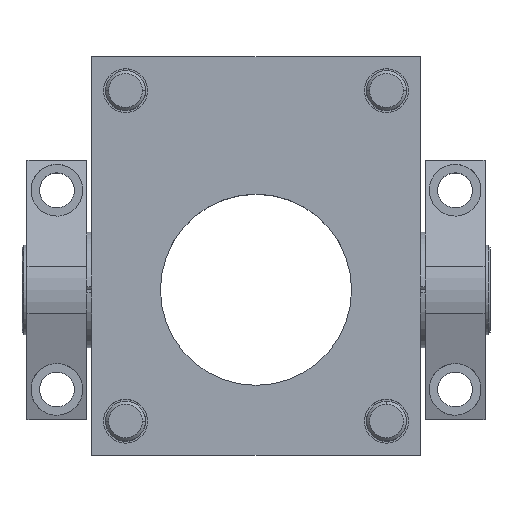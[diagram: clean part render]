
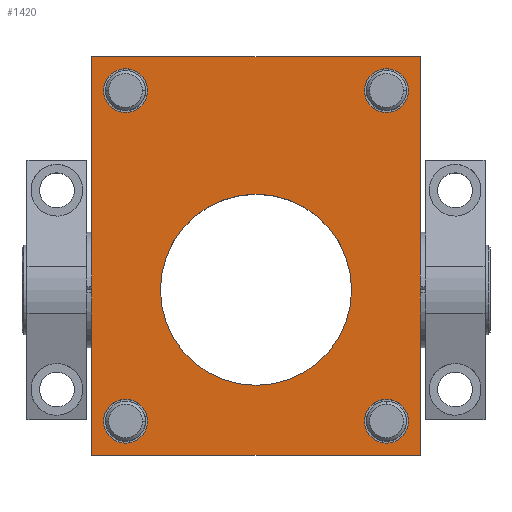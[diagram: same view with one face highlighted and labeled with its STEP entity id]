
A CAD part, top view. The second image highlights one B-rep face of the part: STEP entity #1420.
In plain terms, the highlighted planar face has unit normal (0, 0, 1).
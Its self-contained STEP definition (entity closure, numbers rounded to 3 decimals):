
#20 = VECTOR ( 'NONE', #6064, 1000. ) ;
#49 = LINE ( 'NONE', #4022, #3586 ) ;
#81 = CIRCLE ( 'NONE', #3471, 11. ) ;
#102 = AXIS2_PLACEMENT_3D ( 'NONE', #1019, #5587, #3124 ) ;
#126 = CARTESIAN_POINT ( 'NONE',  ( 65.5, -66., -49.5 ) ) ;
#192 = CARTESIAN_POINT ( 'NONE',  ( 65.5, 100., -49.5 ) ) ;
#193 = CIRCLE ( 'NONE', #6212, 11. ) ;
#229 = ORIENTED_EDGE ( 'NONE', *, *, #1942, .T. ) ;
#234 = FACE_BOUND ( 'NONE', #2367, .T. ) ;
#253 = EDGE_CURVE ( 'NONE', #4575, #2224, #2694, .T. ) ;
#309 = CIRCLE ( 'NONE', #102, 11. ) ;
#380 = DIRECTION ( 'NONE',  ( 0., 1., 0. ) ) ;
#413 = DIRECTION ( 'NONE',  ( 0., 1., 0. ) ) ;
#532 = EDGE_CURVE ( 'NONE', #6255, #1823, #2040, .T. ) ;
#587 = FACE_BOUND ( 'NONE', #5942, .T. ) ;
#595 = AXIS2_PLACEMENT_3D ( 'NONE', #1644, #2282, #2216 ) ;
#612 = VECTOR ( 'NONE', #4142, 1000. ) ;
#651 = ORIENTED_EDGE ( 'NONE', *, *, #253, .T. ) ;
#655 = EDGE_CURVE ( 'NONE', #686, #3051, #2446, .T. ) ;
#686 = VERTEX_POINT ( 'NONE', #4456 ) ;
#703 = DIRECTION ( 'NONE',  ( 0., 1., 0. ) ) ;
#721 = DIRECTION ( 'NONE',  ( 0., -1., 0. ) ) ;
#766 = LINE ( 'NONE', #6365, #20 ) ;
#770 = VERTEX_POINT ( 'NONE', #5042 ) ;
#779 = DIRECTION ( 'NONE',  ( 0., 1., 0. ) ) ;
#804 = VERTEX_POINT ( 'NONE', #4019 ) ;
#895 = ORIENTED_EDGE ( 'NONE', *, *, #4459, .T. ) ;
#912 = VERTEX_POINT ( 'NONE', #6294 ) ;
#955 = CARTESIAN_POINT ( 'NONE',  ( -82.5, 117., -49.5 ) ) ;
#1019 = CARTESIAN_POINT ( 'NONE',  ( 65.5, -66., -49.5 ) ) ;
#1031 = DIRECTION ( 'NONE',  ( 0., 1., 0. ) ) ;
#1139 = DIRECTION ( 'NONE',  ( 0., 0., -1. ) ) ;
#1234 = AXIS2_PLACEMENT_3D ( 'NONE', #192, #6246, #3212 ) ;
#1330 = DIRECTION ( 'NONE',  ( 0., 0., -1. ) ) ;
#1360 = EDGE_CURVE ( 'NONE', #1823, #6255, #309, .T. ) ;
#1420 = ADVANCED_FACE ( 'NONE', ( #2668, #1749, #4738, #234, #587, #1720 ), #2164, .T. ) ;
#1471 = AXIS2_PLACEMENT_3D ( 'NONE', #6225, #2636, #721 ) ;
#1472 = CARTESIAN_POINT ( 'NONE',  ( 65.5, 89., -49.5 ) ) ;
#1481 = CARTESIAN_POINT ( 'NONE',  ( -65.5, -55., -49.5 ) ) ;
#1490 = ORIENTED_EDGE ( 'NONE', *, *, #2028, .T. ) ;
#1644 = CARTESIAN_POINT ( 'NONE',  ( -65.5, 100., -49.5 ) ) ;
#1652 = ORIENTED_EDGE ( 'NONE', *, *, #532, .T. ) ;
#1720 = FACE_OUTER_BOUND ( 'NONE', #5720, .T. ) ;
#1728 = CARTESIAN_POINT ( 'NONE',  ( 82.5, 117., -49.5 ) ) ;
#1749 = FACE_BOUND ( 'NONE', #2695, .T. ) ;
#1818 = AXIS2_PLACEMENT_3D ( 'NONE', #6411, #5303, #380 ) ;
#1823 = VERTEX_POINT ( 'NONE', #4602 ) ;
#1830 = CARTESIAN_POINT ( 'NONE',  ( 65.5, 100., -49.5 ) ) ;
#1840 = DIRECTION ( 'NONE',  ( 0., 1., 0. ) ) ;
#1887 = CIRCLE ( 'NONE', #1234, 11. ) ;
#1895 = CARTESIAN_POINT ( 'NONE',  ( 0., -48., -49.5 ) ) ;
#1942 = EDGE_CURVE ( 'NONE', #912, #4637, #3184, .T. ) ;
#1974 = CARTESIAN_POINT ( 'NONE',  ( 0., 0., -49.5 ) ) ;
#1990 = ORIENTED_EDGE ( 'NONE', *, *, #1360, .T. ) ;
#2028 = EDGE_CURVE ( 'NONE', #5285, #5749, #81, .T. ) ;
#2040 = CIRCLE ( 'NONE', #5617, 11. ) ;
#2081 = EDGE_CURVE ( 'NONE', #5749, #5285, #193, .T. ) ;
#2164 = PLANE ( 'NONE',  #1471 ) ;
#2216 = DIRECTION ( 'NONE',  ( 0., 1., 0. ) ) ;
#2224 = VERTEX_POINT ( 'NONE', #1472 ) ;
#2270 = EDGE_CURVE ( 'NONE', #770, #5691, #49, .T. ) ;
#2282 = DIRECTION ( 'NONE',  ( 0., 0., -1. ) ) ;
#2349 = DIRECTION ( 'NONE',  ( 0., 0., -1. ) ) ;
#2367 = EDGE_LOOP ( 'NONE', ( #1490, #4677 ) ) ;
#2384 = CARTESIAN_POINT ( 'NONE',  ( -65.5, -66., -49.5 ) ) ;
#2406 = CIRCLE ( 'NONE', #5133, 48. ) ;
#2446 = LINE ( 'NONE', #6433, #6466 ) ;
#2550 = EDGE_CURVE ( 'NONE', #2224, #4575, #1887, .T. ) ;
#2636 = DIRECTION ( 'NONE',  ( 0., 0., 1. ) ) ;
#2668 = FACE_BOUND ( 'NONE', #5921, .T. ) ;
#2694 = CIRCLE ( 'NONE', #6382, 11. ) ;
#2695 = EDGE_LOOP ( 'NONE', ( #229, #6450 ) ) ;
#2731 = ORIENTED_EDGE ( 'NONE', *, *, #2550, .T. ) ;
#2785 = DIRECTION ( 'NONE',  ( 0., 0., -1. ) ) ;
#3008 = DIRECTION ( 'NONE',  ( 0., -1., 0. ) ) ;
#3051 = VERTEX_POINT ( 'NONE', #4406 ) ;
#3124 = DIRECTION ( 'NONE',  ( 0., 1., 0. ) ) ;
#3175 = EDGE_CURVE ( 'NONE', #5691, #686, #4209, .T. ) ;
#3184 = CIRCLE ( 'NONE', #595, 11. ) ;
#3202 = CARTESIAN_POINT ( 'NONE',  ( -65.5, 100., -49.5 ) ) ;
#3212 = DIRECTION ( 'NONE',  ( 0., 1., 0. ) ) ;
#3359 = DIRECTION ( 'NONE',  ( 0., 1., 0. ) ) ;
#3415 = ORIENTED_EDGE ( 'NONE', *, *, #3175, .F. ) ;
#3471 = AXIS2_PLACEMENT_3D ( 'NONE', #5300, #2785, #779 ) ;
#3586 = VECTOR ( 'NONE', #1031, 1000. ) ;
#3935 = EDGE_LOOP ( 'NONE', ( #1990, #1652 ) ) ;
#3967 = ORIENTED_EDGE ( 'NONE', *, *, #5944, .T. ) ;
#4019 = CARTESIAN_POINT ( 'NONE',  ( 0., 48., -49.5 ) ) ;
#4022 = CARTESIAN_POINT ( 'NONE',  ( -82.5, 117., -49.5 ) ) ;
#4142 = DIRECTION ( 'NONE',  ( 1., 0., 0. ) ) ;
#4209 = LINE ( 'NONE', #1728, #612 ) ;
#4406 = CARTESIAN_POINT ( 'NONE',  ( 82.5, -83., -49.5 ) ) ;
#4436 = ORIENTED_EDGE ( 'NONE', *, *, #655, .F. ) ;
#4456 = CARTESIAN_POINT ( 'NONE',  ( 82.5, 117., -49.5 ) ) ;
#4459 = EDGE_CURVE ( 'NONE', #804, #5163, #2406, .T. ) ;
#4564 = CARTESIAN_POINT ( 'NONE',  ( -65.5, 89., -49.5 ) ) ;
#4575 = VERTEX_POINT ( 'NONE', #4984 ) ;
#4602 = CARTESIAN_POINT ( 'NONE',  ( 65.5, -55., -49.5 ) ) ;
#4619 = CARTESIAN_POINT ( 'NONE',  ( -65.5, -77., -49.5 ) ) ;
#4626 = CARTESIAN_POINT ( 'NONE',  ( 65.5, -77., -49.5 ) ) ;
#4637 = VERTEX_POINT ( 'NONE', #4564 ) ;
#4677 = ORIENTED_EDGE ( 'NONE', *, *, #2081, .T. ) ;
#4738 = FACE_BOUND ( 'NONE', #3935, .T. ) ;
#4954 = DIRECTION ( 'NONE',  ( 0., 0., -1. ) ) ;
#4984 = CARTESIAN_POINT ( 'NONE',  ( 65.5, 111., -49.5 ) ) ;
#5042 = CARTESIAN_POINT ( 'NONE',  ( -82.5, -83., -49.5 ) ) ;
#5133 = AXIS2_PLACEMENT_3D ( 'NONE', #1974, #4954, #413 ) ;
#5163 = VERTEX_POINT ( 'NONE', #1895 ) ;
#5285 = VERTEX_POINT ( 'NONE', #1481 ) ;
#5286 = ORIENTED_EDGE ( 'NONE', *, *, #2270, .F. ) ;
#5300 = CARTESIAN_POINT ( 'NONE',  ( -65.5, -66., -49.5 ) ) ;
#5303 = DIRECTION ( 'NONE',  ( 0., 0., -1. ) ) ;
#5587 = DIRECTION ( 'NONE',  ( 0., 0., -1. ) ) ;
#5617 = AXIS2_PLACEMENT_3D ( 'NONE', #126, #1139, #6336 ) ;
#5691 = VERTEX_POINT ( 'NONE', #955 ) ;
#5719 = CIRCLE ( 'NONE', #1818, 48. ) ;
#5720 = EDGE_LOOP ( 'NONE', ( #3415, #5286, #5804, #4436 ) ) ;
#5749 = VERTEX_POINT ( 'NONE', #4619 ) ;
#5804 = ORIENTED_EDGE ( 'NONE', *, *, #5806, .F. ) ;
#5806 = EDGE_CURVE ( 'NONE', #3051, #770, #766, .T. ) ;
#5921 = EDGE_LOOP ( 'NONE', ( #895, #3967 ) ) ;
#5942 = EDGE_LOOP ( 'NONE', ( #651, #2731 ) ) ;
#5944 = EDGE_CURVE ( 'NONE', #5163, #804, #5719, .T. ) ;
#6064 = DIRECTION ( 'NONE',  ( -1., 0., 0. ) ) ;
#6157 = CIRCLE ( 'NONE', #6367, 11. ) ;
#6163 = EDGE_CURVE ( 'NONE', #4637, #912, #6157, .T. ) ;
#6204 = DIRECTION ( 'NONE',  ( 0., 0., -1. ) ) ;
#6212 = AXIS2_PLACEMENT_3D ( 'NONE', #2384, #2349, #1840 ) ;
#6225 = CARTESIAN_POINT ( 'NONE',  ( 0., 17., -49.5 ) ) ;
#6246 = DIRECTION ( 'NONE',  ( 0., 0., -1. ) ) ;
#6255 = VERTEX_POINT ( 'NONE', #4626 ) ;
#6294 = CARTESIAN_POINT ( 'NONE',  ( -65.5, 111., -49.5 ) ) ;
#6336 = DIRECTION ( 'NONE',  ( 0., 1., 0. ) ) ;
#6365 = CARTESIAN_POINT ( 'NONE',  ( -82.5, -83., -49.5 ) ) ;
#6367 = AXIS2_PLACEMENT_3D ( 'NONE', #3202, #6204, #703 ) ;
#6382 = AXIS2_PLACEMENT_3D ( 'NONE', #1830, #1330, #3359 ) ;
#6411 = CARTESIAN_POINT ( 'NONE',  ( 0., 0., -49.5 ) ) ;
#6433 = CARTESIAN_POINT ( 'NONE',  ( 82.5, -83., -49.5 ) ) ;
#6450 = ORIENTED_EDGE ( 'NONE', *, *, #6163, .T. ) ;
#6466 = VECTOR ( 'NONE', #3008, 1000. ) ;
